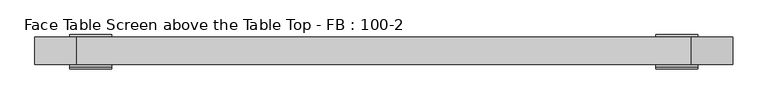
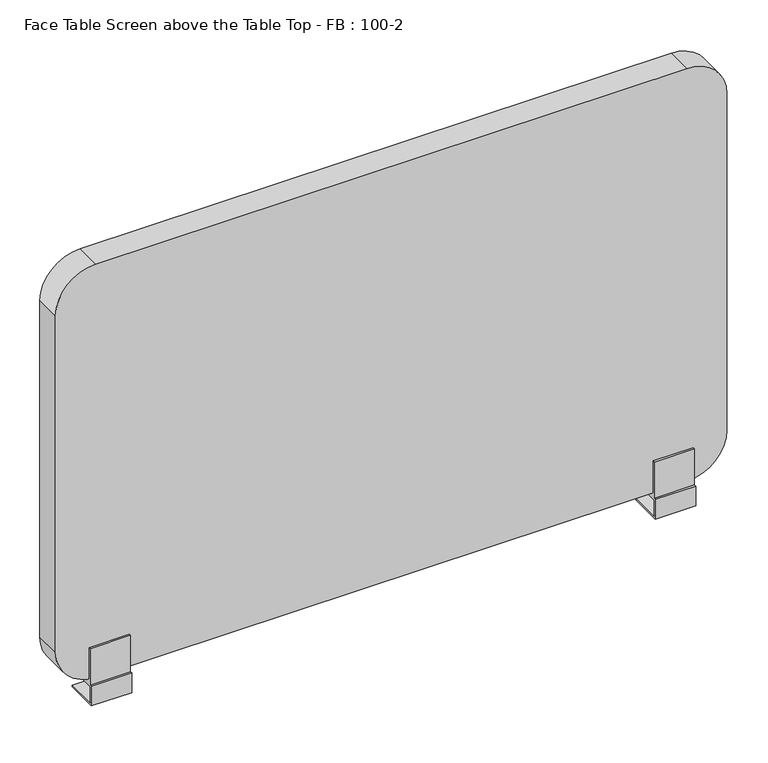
"""IFC4 building model written with IfcOpenShell, lengths in millimetres: furniture geometry, Face Table Screen above the Table Top - FB : 100-2."""

from ifc_helpers import new_model, si_unit, point, frame, frame_2d, origin, place, context, project, spatial, polyline, circle_curve, trimmed, segment, composite_curve, outline, extrude, source, transform, mapped, element, save
from ifc_brep_helpers import plane_surface, cylinder_surface, advanced_brep


def face_table_screen_above_the_table_top_fb_100_2_4c9ac82c(model_context):
    return source(origin(), model_context, "Body", "SolidModel", [
        advanced_brep(
        [(-425.0, 20.0, -39.4406633), (-415.0, 20.0, -39.4406633), (-415.0, 20.0, -28.0), (-425.0, 20.0, -28.0), (-450.0, 43.0, -25.0), (-450.0, -3.0, -25.0), (-390.0, -3.0, -25.0), (-390.0, 43.0, -25.0), (-450.0, -3.0, 0.0), (-450.0, 43.0, -28.0), (-450.0, -6.0, -28.0), (-450.0, -6.0, 3.0), (-450.0, -3.0, 3.0), (-450.0, -3.0, 60.0), (-450.0, 0.0, 60.0), (-450.0, 0.0, 10.0), (-450.0, 40.0, 10.0), (-450.0, 40.0, 60.0), (-450.0, 43.0, 60.0), (-450.0, 43.0, 0.0), (-390.0, -3.0, 0.0), (-390.0, 43.0, 0.0), (-390.0, 43.0, 60.0), (-390.0, 40.0, 60.0), (-390.0, 40.0, 10.0), (-390.0, 0.0, 10.0), (-390.0, 0.0, 60.0), (-390.0, -3.0, 60.0), (-390.0, -3.0, 3.0), (-390.0, -6.0, 3.0), (-390.0, -6.0, -28.0), (-390.0, 43.0, -28.0)],
        [
            (0, 1, circle_curve(frame((-420.0, 20.0, -39.4406633), z_axis=(0.0, 0.0, -1.0), x_axis=(1.0, 0.0, 0.0)), 5.0)),
            (1, 0, circle_curve(frame((-420.0, 20.0, -39.4406633), z_axis=(0.0, 0.0, -1.0), x_axis=(1.0, 0.0, 0.0)), 5.0)),
            (1, 2),
            (2, 3, circle_curve(frame((-420.0, 20.0, -28.0), z_axis=(0.0, 0.0, -1.0), x_axis=(1.0, 0.0, 0.0)), 5.0)),
            (3, 0),
            (3, 2, circle_curve(frame((-420.0, 20.0, -28.0), z_axis=(0.0, 0.0, -1.0), x_axis=(1.0, 0.0, 0.0)), 5.0)),
            (4, 5),
            (5, 6),
            (6, 7),
            (7, 4),
            (8, 5),
            (4, 9),
            (9, 10),
            (10, 11),
            (11, 12),
            (12, 13),
            (13, 14),
            (14, 15),
            (15, 16),
            (16, 17),
            (17, 18),
            (18, 19),
            (19, 8),
            (20, 21),
            (21, 22),
            (22, 23),
            (23, 24),
            (24, 25),
            (25, 26),
            (26, 27),
            (27, 28),
            (28, 29),
            (29, 30),
            (30, 31),
            (31, 7),
            (6, 20),
            (19, 21),
            (20, 8),
            (18, 22),
            (17, 23),
            (16, 24),
            (15, 25),
            (14, 26),
            (13, 27),
            (12, 28),
            (11, 29),
            (10, 30),
            (9, 31),
        ],
        [
            plane_surface(frame((-415.0, 20.0, -39.4406633), z_axis=(0.0, 0.0, -1.0), x_axis=(0.0, -1.0, 0.0))),
            cylinder_surface(frame((-420.0, 20.0, -39.4406633), z_axis=(0.0, 0.0, 1.0), x_axis=(1.0, 0.0, 0.0)), 5.0),
            plane_surface(frame((-415.0, 20.0, -25.0), z_axis=(0.0, 0.0, 1.0), x_axis=(0.0, 1.0, 0.0))),
            plane_surface(frame((-450.0, 43.0, 0.0), z_axis=(-1.0, 0.0, 0.0), x_axis=(0.0, -1.0, 0.0))),
            plane_surface(frame((-390.0, 43.0, 0.0), z_axis=(1.0, 0.0, 0.0), x_axis=(0.0, 1.0, 0.0))),
            plane_surface(frame((-390.0, -3.0, 0.0), z_axis=(0.0, 0.0, -1.0), x_axis=(-1.0, 0.0, 0.0))),
            plane_surface(frame((-390.0, 43.0, 0.0), z_axis=(0.0, 1.0, 0.0), x_axis=(-1.0, 0.0, 0.0))),
            plane_surface(frame((-390.0, 43.0, 60.0), z_axis=(0.0, 0.0, 1.0), x_axis=(-1.0, 0.0, 0.0))),
            plane_surface(frame((-390.0, 40.0, 60.0), z_axis=(0.0, -1.0, 0.0), x_axis=(-1.0, 0.0, 0.0))),
            plane_surface(frame((-390.0, 40.0, 10.0), z_axis=(0.0, 0.0, 1.0), x_axis=(-1.0, 0.0, 0.0))),
            plane_surface(frame((-390.0, 0.0, 10.0), z_axis=(0.0, 1.0, 0.0), x_axis=(-1.0, 0.0, 0.0))),
            plane_surface(frame((-390.0, 0.0, 60.0), z_axis=(0.0, 0.0, 1.0), x_axis=(-1.0, 0.0, 0.0))),
            plane_surface(frame((-390.0, -3.0, 60.0), z_axis=(0.0, -1.0, 0.0), x_axis=(-1.0, 0.0, 0.0))),
            plane_surface(frame((-390.0, -3.0, 3.0), z_axis=(0.0, 0.0, 1.0), x_axis=(-1.0, 0.0, 0.0))),
            plane_surface(frame((-390.0, -6.0, 3.0), z_axis=(0.0, -1.0, 0.0), x_axis=(-1.0, 0.0, 0.0))),
            plane_surface(frame((-390.0, -6.0, -28.0), z_axis=(0.0, 0.0, -1.0), x_axis=(-1.0, 0.0, 0.0))),
            plane_surface(frame((-390.0, 43.0, -28.0), z_axis=(0.0, 1.0, 0.0), x_axis=(-1.0, 0.0, 0.0))),
            plane_surface(frame((-390.0, -3.0, -25.0), z_axis=(0.0, 1.0, 0.0), x_axis=(-1.0, 0.0, 0.0))),
        ],
        [
            (0, [[1, 2]]),
            (1, [[-2, 3, 4, 5]]),
            (1, [[-1, -5, 6, -3]]),
            (2, [[7, 8, 9, 10]]),
            (3, [[11, -7, 12, 13, 14, 15, 16, 17, 18, 19, 20, 21, 22, 23]]),
            (4, [[24, 25, 26, 27, 28, 29, 30, 31, 32, 33, 34, 35, -9, 36]]),
            (5, [[-23, 37, -24, 38]]),
            (6, [[-22, 39, -25, -37]]),
            (7, [[-21, 40, -26, -39]]),
            (8, [[-20, 41, -27, -40]]),
            (9, [[-19, 42, -28, -41]]),
            (10, [[-18, 43, -29, -42]]),
            (11, [[-17, 44, -30, -43]]),
            (12, [[-16, 45, -31, -44]]),
            (13, [[-15, 46, -32, -45]]),
            (14, [[-14, 47, -33, -46]]),
            (15, [[-13, 48, -34, -47], [-4, -6]]),
            (16, [[-12, -10, -35, -48]]),
            (17, [[-11, -38, -36, -8]]),
        ],
    ),
        advanced_brep(
        [(415.0, 20.0, -39.4406633), (425.0, 20.0, -39.4406633), (425.0, 20.0, -28.0), (415.0, 20.0, -28.0), (390.0, 43.0, -25.0), (390.0, -3.0, -25.0), (450.0, -3.0, -25.0), (450.0, 43.0, -25.0), (390.0, -3.0, 0.0), (390.0, 43.0, -28.0), (390.0, -6.0, -28.0), (390.0, -6.0, 3.0), (390.0, -3.0, 3.0), (390.0, -3.0, 60.0), (390.0, 0.0, 60.0), (390.0, 0.0, 10.0), (390.0, 40.0, 10.0), (390.0, 40.0, 60.0), (390.0, 43.0, 60.0), (390.0, 43.0, 0.0), (450.0, -3.0, 0.0), (450.0, 43.0, 0.0), (450.0, 43.0, 60.0), (450.0, 40.0, 60.0), (450.0, 40.0, 10.0), (450.0, 0.0, 10.0), (450.0, 0.0, 60.0), (450.0, -3.0, 60.0), (450.0, -3.0, 3.0), (450.0, -6.0, 3.0), (450.0, -6.0, -28.0), (450.0, 43.0, -28.0)],
        [
            (0, 1, circle_curve(frame((420.0, 20.0, -39.4406633), z_axis=(0.0, 0.0, -1.0), x_axis=(1.0, 0.0, 0.0)), 5.0)),
            (1, 0, circle_curve(frame((420.0, 20.0, -39.4406633), z_axis=(0.0, 0.0, -1.0), x_axis=(1.0, 0.0, 0.0)), 5.0)),
            (1, 2),
            (2, 3, circle_curve(frame((420.0, 20.0, -28.0), z_axis=(0.0, 0.0, -1.0), x_axis=(1.0, 0.0, 0.0)), 5.0)),
            (3, 0),
            (3, 2, circle_curve(frame((420.0, 20.0, -28.0), z_axis=(0.0, 0.0, -1.0), x_axis=(1.0, 0.0, 0.0)), 5.0)),
            (4, 5),
            (5, 6),
            (6, 7),
            (7, 4),
            (8, 5),
            (4, 9),
            (9, 10),
            (10, 11),
            (11, 12),
            (12, 13),
            (13, 14),
            (14, 15),
            (15, 16),
            (16, 17),
            (17, 18),
            (18, 19),
            (19, 8),
            (20, 21),
            (21, 22),
            (22, 23),
            (23, 24),
            (24, 25),
            (25, 26),
            (26, 27),
            (27, 28),
            (28, 29),
            (29, 30),
            (30, 31),
            (31, 7),
            (6, 20),
            (19, 21),
            (20, 8),
            (18, 22),
            (17, 23),
            (16, 24),
            (15, 25),
            (14, 26),
            (13, 27),
            (12, 28),
            (11, 29),
            (10, 30),
            (9, 31),
        ],
        [
            plane_surface(frame((425.0, 20.0, -39.4406633), z_axis=(0.0, 0.0, -1.0), x_axis=(0.0, -1.0, 0.0))),
            cylinder_surface(frame((420.0, 20.0, -39.4406633), z_axis=(0.0, 0.0, 1.0), x_axis=(1.0, 0.0, 0.0)), 5.0),
            plane_surface(frame((425.0, 20.0, -25.0), z_axis=(0.0, 0.0, 1.0), x_axis=(0.0, 1.0, 0.0))),
            plane_surface(frame((390.0, 43.0, 0.0), z_axis=(-1.0, 0.0, 0.0), x_axis=(0.0, -1.0, 0.0))),
            plane_surface(frame((450.0, 43.0, 0.0), z_axis=(1.0, 0.0, 0.0), x_axis=(0.0, 1.0, 0.0))),
            plane_surface(frame((450.0, -3.0, 0.0), z_axis=(0.0, 0.0, -1.0), x_axis=(-1.0, 0.0, 0.0))),
            plane_surface(frame((450.0, 43.0, 0.0), z_axis=(0.0, 1.0, 0.0), x_axis=(-1.0, 0.0, 0.0))),
            plane_surface(frame((450.0, 43.0, 60.0), z_axis=(0.0, 0.0, 1.0), x_axis=(-1.0, 0.0, 0.0))),
            plane_surface(frame((450.0, 40.0, 60.0), z_axis=(0.0, -1.0, 0.0), x_axis=(-1.0, 0.0, 0.0))),
            plane_surface(frame((450.0, 40.0, 10.0), z_axis=(0.0, 0.0, 1.0), x_axis=(-1.0, 0.0, 0.0))),
            plane_surface(frame((450.0, 0.0, 10.0), z_axis=(0.0, 1.0, 0.0), x_axis=(-1.0, 0.0, 0.0))),
            plane_surface(frame((450.0, 0.0, 60.0), z_axis=(0.0, 0.0, 1.0), x_axis=(-1.0, 0.0, 0.0))),
            plane_surface(frame((450.0, -3.0, 60.0), z_axis=(0.0, -1.0, 0.0), x_axis=(-1.0, 0.0, 0.0))),
            plane_surface(frame((450.0, -3.0, 3.0), z_axis=(0.0, 0.0, 1.0), x_axis=(-1.0, 0.0, 0.0))),
            plane_surface(frame((450.0, -6.0, 3.0), z_axis=(0.0, -1.0, 0.0), x_axis=(-1.0, 0.0, 0.0))),
            plane_surface(frame((450.0, -6.0, -28.0), z_axis=(0.0, 0.0, -1.0), x_axis=(-1.0, 0.0, 0.0))),
            plane_surface(frame((450.0, 43.0, -28.0), z_axis=(0.0, 1.0, 0.0), x_axis=(-1.0, 0.0, 0.0))),
            plane_surface(frame((450.0, -3.0, -25.0), z_axis=(0.0, 1.0, 0.0), x_axis=(-1.0, 0.0, 0.0))),
        ],
        [
            (0, [[1, 2]]),
            (1, [[-2, 3, 4, 5]]),
            (1, [[-1, -5, 6, -3]]),
            (2, [[7, 8, 9, 10]]),
            (3, [[11, -7, 12, 13, 14, 15, 16, 17, 18, 19, 20, 21, 22, 23]]),
            (4, [[24, 25, 26, 27, 28, 29, 30, 31, 32, 33, 34, 35, -9, 36]]),
            (5, [[-23, 37, -24, 38]]),
            (6, [[-22, 39, -25, -37]]),
            (7, [[-21, 40, -26, -39]]),
            (8, [[-20, 41, -27, -40]]),
            (9, [[-19, 42, -28, -41]]),
            (10, [[-18, 43, -29, -42]]),
            (11, [[-17, 44, -30, -43]]),
            (12, [[-16, 45, -31, -44]]),
            (13, [[-15, 46, -32, -45]]),
            (14, [[-14, 47, -33, -46]]),
            (15, [[-13, 48, -34, -47], [-4, -6]]),
            (16, [[-12, -10, -35, -48]]),
            (17, [[-11, -38, -36, -8]]),
        ],
    ),
        extrude(outline(composite_curve([segment(polyline([(660.0, 440.0), (660.0, -440.0)]), True, "CONTINUOUS"), segment(trimmed(circle_curve(frame_2d((600.0, -440.0)), 60.0), [point((660.0, -440.0))], [point((600.0, -500.0))], False, "CARTESIAN"), True, "CONTINUOUS"), segment(polyline([(600.0, -500.0), (70.0, -500.0)]), True, "CONTINUOUS"), segment(trimmed(circle_curve(frame_2d((70.0, -440.0)), 60.0), [point((70.0, -500.0))], [point((10.0, -440.0))], False, "CARTESIAN"), True, "CONTINUOUS"), segment(polyline([(10.0, -440.0), (10.0, 440.0)]), True, "CONTINUOUS"), segment(trimmed(circle_curve(frame_2d((70.0, 440.0)), 60.0), [point((10.0, 440.0))], [point((70.0, 500.0))], False, "CARTESIAN"), True, "CONTINUOUS"), segment(polyline([(70.0, 500.0), (600.0, 500.0)]), True, "CONTINUOUS"), segment(trimmed(circle_curve(frame_2d((600.0, 440.0)), 60.0), [point((600.0, 500.0))], [point((660.0, 440.0))], False, "CARTESIAN"), True, "CONTINUOUS")], self_intersect=False)), frame((0.0, 0.0, 0.0), z_axis=(0.0, 1.0, 0.0), x_axis=(0.0, 0.0, 1.0)), (0.0, 0.0, 1.0), 40.0),
    ])


if __name__ == "__main__":
    model = new_model("IFC4")
    model_context = context("Model", 3, world=origin())
    ifc_project = project(units=[si_unit("LENGTHUNIT", "METRE", prefix="MILLI")], contexts=[model_context])
    site = spatial("IfcSite", under=ifc_project)
    building = spatial("IfcBuilding", under=site)
    placement = place(None, origin())
    face_table_screen_above_the_table_top_fb_100_2_shape = face_table_screen_above_the_table_top_fb_100_2_4c9ac82c(model_context)
    element("IfcFurniture", 1, ObjectType="Face Table Screen above the Table Top - FB : 100-2", at=placement, inside=building, context=model_context, shape_type="MappedRepresentation", body=[
        mapped(face_table_screen_above_the_table_top_fb_100_2_shape, transform((0.0, 0.0, 0.0), x_axis=(1.0, 0.0, 0.0), y_axis=(0.0, 1.0, 0.0), z_axis=(0.0, 0.0, 1.0))),
    ])
    save(model, "model.ifc")
